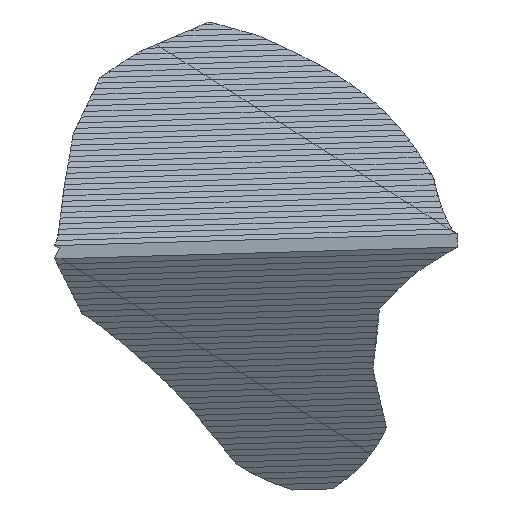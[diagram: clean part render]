
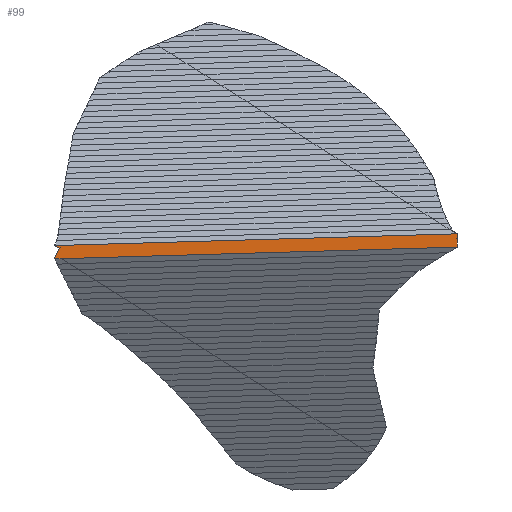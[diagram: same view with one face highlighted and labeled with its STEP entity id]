
A CAD part, top view. The second image highlights one B-rep face of the part: STEP entity #99.
In plain terms, the highlighted planar face has unit normal (0, 0, 1).
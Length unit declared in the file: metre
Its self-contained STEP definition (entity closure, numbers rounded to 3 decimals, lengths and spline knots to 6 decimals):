
#99=ADVANCED_FACE('',(#711),#9555,.T.);
#711=FACE_OUTER_BOUND('',#1323,.T.);
#1323=EDGE_LOOP('',(#1948,#1949,#1950,#1951,#1952,#1953,#1954,#1955));
#1948=ORIENTED_EDGE('',*,*,#5077,.T.);
#1949=ORIENTED_EDGE('',*,*,#5082,.T.);
#1950=ORIENTED_EDGE('',*,*,#5074,.T.);
#1951=ORIENTED_EDGE('',*,*,#5068,.T.);
#1952=ORIENTED_EDGE('',*,*,#5075,.T.);
#1953=ORIENTED_EDGE('',*,*,#5078,.T.);
#1954=ORIENTED_EDGE('',*,*,#5073,.T.);
#1955=ORIENTED_EDGE('',*,*,#5070,.T.);
#5068=EDGE_CURVE('',#8204,#8208,#6636,.T.);
#5070=EDGE_CURVE('',#8203,#8205,#6638,.T.);
#5073=EDGE_CURVE('',#8206,#8203,#6641,.T.);
#5074=EDGE_CURVE('',#8209,#8204,#6642,.T.);
#5075=EDGE_CURVE('',#8208,#8211,#6643,.T.);
#5077=EDGE_CURVE('',#8205,#8210,#6645,.T.);
#5078=EDGE_CURVE('',#8211,#8206,#6646,.T.);
#5082=EDGE_CURVE('',#8210,#8209,#6650,.T.);
#6636=B_SPLINE_CURVE_WITH_KNOTS('',3,(#10593,#10594,#10595,#10596),
 .UNSPECIFIED.,.F.,.F.,(4,4),(0.,498.73618),.UNSPECIFIED.);
#6638=B_SPLINE_CURVE_WITH_KNOTS('',3,(#10599,#10600,#10601,#10602),
 .UNSPECIFIED.,.F.,.F.,(4,4),(10.444054,517.517843),
 .UNSPECIFIED.);
#6641=B_SPLINE_CURVE_WITH_KNOTS('',1,(#10611,#10612),.UNSPECIFIED.,.F.,
 .F.,(2,2),(8.99069,10.444054),.UNSPECIFIED.);
#6642=B_SPLINE_CURVE_WITH_KNOTS('',1,(#10613,#10614),.UNSPECIFIED.,.F.,
 .F.,(2,2),(2.750634,11.14861),.UNSPECIFIED.);
#6643=B_SPLINE_CURVE_WITH_KNOTS('',1,(#10615,#10616),.UNSPECIFIED.,.F.,
 .F.,(2,2),(-433.96959,-422.28596),.UNSPECIFIED.);
#6645=B_SPLINE_CURVE_WITH_KNOTS('',1,(#10619,#10620),.UNSPECIFIED.,.F.,
 .F.,(2,2),(-845.661786,-780.422116),.UNSPECIFIED.);
#6646=B_SPLINE_CURVE_WITH_KNOTS('',1,(#10621,#10622),.UNSPECIFIED.,.F.,
 .F.,(2,2),(-422.28596,-417.138375),.UNSPECIFIED.);
#6650=B_SPLINE_CURVE_WITH_KNOTS('',1,(#10629,#10630),.UNSPECIFIED.,.F.,
 .F.,(2,2),(-188.536219,-101.9569),.UNSPECIFIED.);
#8203=VERTEX_POINT('',#10572);
#8204=VERTEX_POINT('',#10573);
#8205=VERTEX_POINT('',#10574);
#8206=VERTEX_POINT('',#10575);
#8208=VERTEX_POINT('',#10577);
#8209=VERTEX_POINT('',#10578);
#8210=VERTEX_POINT('',#10579);
#8211=VERTEX_POINT('',#10580);
#9555=PLANE('',#9943);
#9943=AXIS2_PLACEMENT_3D('',#10552,#10247,$);
#10247=DIRECTION('',(0.,0.,1.));
#10552=CARTESIAN_POINT('',(266.756092,15.259257,724.5));
#10572=CARTESIAN_POINT('',(251.120875,14.636033,724.5));
#10573=CARTESIAN_POINT('',(-246.855673,-16.611342,724.5));
#10574=CARTESIAN_POINT('',(-255.737415,-0.145736,724.5));
#10575=CARTESIAN_POINT('',(252.573622,14.6784,724.5));
#10577=CARTESIAN_POINT('',(251.668552,-2.072624,724.5));
#10578=CARTESIAN_POINT('',(-255.25008,-16.856153,724.5));
#10579=CARTESIAN_POINT('',(-249.188434,-3.239585,724.5));
#10580=CARTESIAN_POINT('',(251.668552,9.611006,724.5));
#10593=CARTESIAN_POINT('',(-246.855673,-16.611342,724.5));
#10594=CARTESIAN_POINT('',(-80.680931,-11.765103,724.5));
#10595=CARTESIAN_POINT('',(85.493811,-6.918864,724.5));
#10596=CARTESIAN_POINT('',(251.668552,-2.072624,724.5));
#10599=CARTESIAN_POINT('',(251.120875,14.636033,724.5));
#10600=CARTESIAN_POINT('',(82.168112,9.708777,724.5));
#10601=CARTESIAN_POINT('',(-86.784651,4.781521,724.5));
#10602=CARTESIAN_POINT('',(-255.737415,-0.145736,724.5));
#10611=CARTESIAN_POINT('',(252.573622,14.6784,724.5));
#10612=CARTESIAN_POINT('',(251.120875,14.636033,724.5));
#10613=CARTESIAN_POINT('',(-255.25008,-16.856153,724.5));
#10614=CARTESIAN_POINT('',(-246.855673,-16.611342,724.5));
#10615=CARTESIAN_POINT('',(251.668552,-2.072624,724.5));
#10616=CARTESIAN_POINT('',(251.668552,9.611006,724.5));
#10619=CARTESIAN_POINT('',(-255.737415,-0.145736,724.5));
#10620=CARTESIAN_POINT('',(-249.188434,-3.239585,724.5));
#10621=CARTESIAN_POINT('',(251.668552,9.611006,724.5));
#10622=CARTESIAN_POINT('',(252.573622,14.6784,724.5));
#10629=CARTESIAN_POINT('',(-249.188434,-3.239585,724.5));
#10630=CARTESIAN_POINT('',(-255.25008,-16.856153,724.5));
